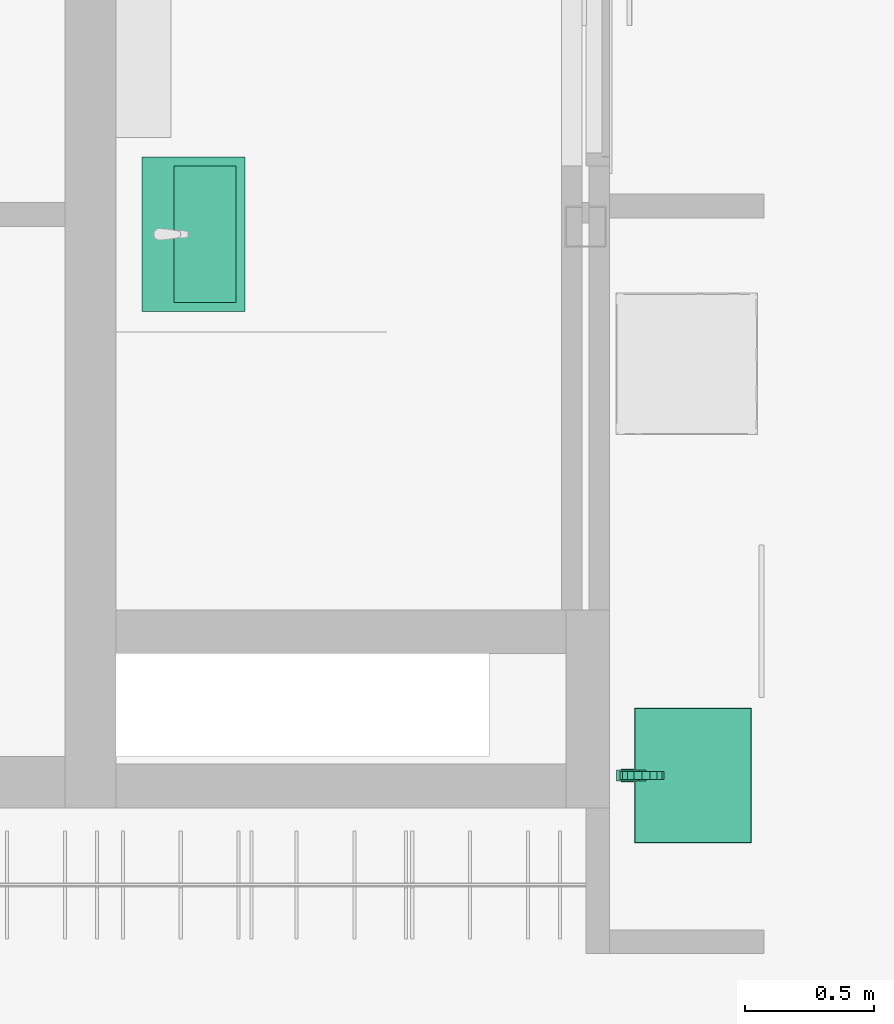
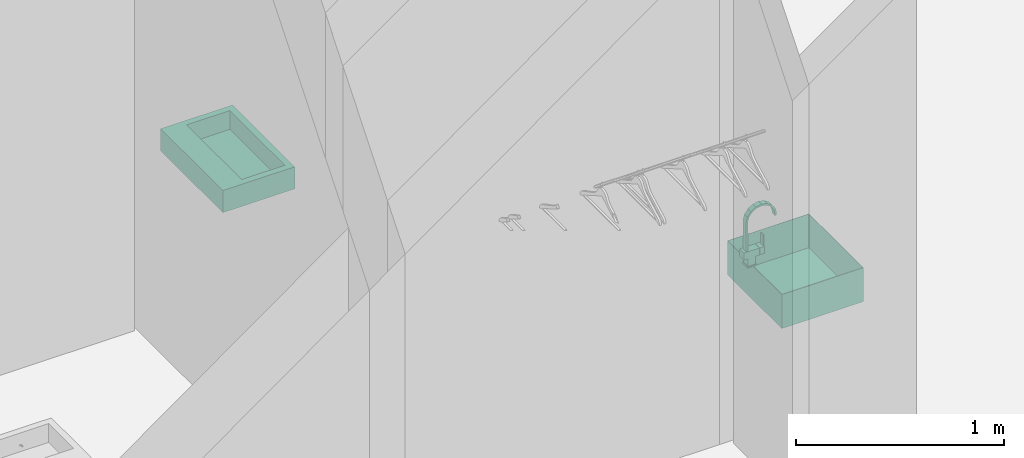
# One storey, part 18 of 42: 3 flow terminals.
"""IFC2X3 building model written with IfcOpenShell, lengths in millimetres."""

from ifc_helpers import new_model, entity, si_unit, converted_unit, direction, frame, origin, place, context, subcontext, project, spatial, faceted_brep, source, transform, mapped, material, type_object, type_shapes, element, save


model = new_model("IFC2X3")

# Units and contexts
model_context = context("Model", 3, precision=0.01, world=origin(), true_north=direction((6.123233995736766e-17, 1.0)))
plan_context = context("Plan", 3, precision=0.01, world=origin(), true_north=direction((6.123233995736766e-17, 1.0)))
body_context = subcontext(model_context, "Body", "Model", "MODEL_VIEW")
ifc_project = project(units=[si_unit("LENGTHUNIT", "METRE", prefix="MILLI"), converted_unit("PLANEANGLEUNIT", "DEGREE", entity("IfcPlaneAngleMeasure", 0.017453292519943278), si_unit("PLANEANGLEUNIT", "RADIAN"), dimensions=[0, 0, 0, 0, 0, 0, 0]), si_unit("AREAUNIT", "SQUARE_METRE")], contexts=[model_context, plan_context])

# Site, building, storey, space
site_placement = place(None, origin())
site = spatial("IfcSite", under=ifc_project, at=site_placement, Name="Default", CompositionType="ELEMENT")
building_placement = place(site_placement, origin())
building = spatial("IfcBuilding", under=site, at=building_placement, CompositionType="ELEMENT")
storey_placement = place(building_placement, frame((0.0, 0.0, 9465.000076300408)))
storey = spatial("IfcBuildingStorey", under=building, at=storey_placement, Name="4K", CompositionType="ELEMENT", Elevation=9465.000076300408)
space_1_placement = place(storey_placement, origin())
space_1 = spatial("IfcSpace", under=storey, at=space_1_placement, Name="4-10.2", CompositionType="ELEMENT", InteriorOrExteriorSpace="INTERNAL")

# Flow terminals
ifc_material = material(Name="<Unnamed>")
distribution_element_type_1 = type_object("IfcDistributionElementType", Name="HR_Plumbing-fixtures_Sink_Generic_Kitchen_v1:Default", material=ifc_material)
shared_shape_1 = source(origin(), body_context, "Body", "Brep", [
    faceted_brep([(260.0, -50.0, -3825.0), (260.0, -500.0, -3825.0), (-260.0, -500.0, -3825.0), (-260.0, -50.0, -3825.0), (262.0, -48.0, -3825.0), (-262.0, -48.0, -3825.0), (-262.0, -502.0, -3825.0), (262.0, -502.0, -3825.0), (262.0, -48.0, -4025.0), (262.0, -502.0, -4025.0), (-262.0, -502.0, -4025.0), (-262.0, -48.0, -4025.0), (260.0, -50.0, -4023.0), (260.0, -500.0, -4023.0), (-260.0, -500.0, -4023.0), (-260.0, -50.0, -4023.0)], [[[0, 1, 2, 3], [4, 5, 6, 7]], [[8, 9, 10, 11]], [[1, 0, 12, 13]], [[2, 1, 13, 14]], [[3, 2, 14, 15]], [[0, 3, 15, 12]], [[5, 4, 8, 11]], [[6, 5, 11, 10]], [[7, 6, 10, 9]], [[4, 7, 9, 8]], [[13, 12, 15, 14]]], outer=[[False, True], [True], [True], [True], [True], [True], [True], [True], [True], [True], [True]]),
])
type_shapes(distribution_element_type_1, [shared_shape_1])
flow_terminal_1_placement = place(space_1_placement, frame((12668.0, 8566.0, 4695.0), z_axis=(0.0, 0.0, 1.0), x_axis=(0.0, -1.0, 0.0)))
element("IfcFlowTerminal", 1, at=flow_terminal_1_placement, inside=space_1, type_object=distribution_element_type_1, material=ifc_material, Name="HR_Plumbing-fixtures_Sink_Generic_Kitchen_v1:Default", ObjectType="HR_Plumbing-fixtures_Sink_Generic_Kitchen_v1:Default", context=body_context, shape_type="MappedRepresentation", body=[
    mapped(shared_shape_1, transform((0.0, 0.0, 0.0), scale=1.0)),
])
distribution_element_type_2 = type_object("IfcDistributionElementType", Name="HR_Plumbing-fixtures_Faucet_Generic_v1:Default", material=ifc_material)
shared_shape_2 = source(origin(), body_context, "Body", "Brep", [
    faceted_brep([(-21.0, 45.0, 93.0), (21.0, 45.0, 93.0), (21.0, 71.0, 93.0), (11.500000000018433, 71.0, 93.0), (11.50000000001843, 68.0, 93.0), (-11.49999999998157, 68.0, 93.0), (-11.499999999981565, 71.0, 93.0), (-21.0, 71.0, 93.0), (-21.0, 45.0, 52.0), (-21.0, 71.0, 52.0), (-11.499999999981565, 71.0, 52.0), (-11.49999999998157, 68.0, 52.0), (11.50000000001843, 68.0, 52.0), (11.500000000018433, 71.0, 52.0), (21.0, 71.0, 52.0), (21.0, 45.0, 52.0), (-11.499999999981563, 74.0, 155.0), (-11.499999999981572, 68.0, 155.0), (11.500000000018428, 68.0, 155.0), (11.500000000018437, 74.0, 155.0), (-11.499999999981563, 74.0, 47.0), (11.500000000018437, 74.0, 47.0), (11.500000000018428, 68.0, 47.0), (-11.499999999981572, 68.0, 47.0)], [[[0, 1, 2, 3, 4, 5, 6, 7]], [[8, 9, 10, 11, 12, 13, 14, 15]], [[1, 0, 8, 15]], [[2, 1, 15, 14]], [[2, 14, 13, 3]], [[0, 7, 9, 8]], [[16, 17, 18, 19]], [[20, 21, 22, 23]], [[17, 16, 20, 23, 11, 10, 6, 5]], [[18, 17, 5, 4]], [[19, 18, 4, 3, 13, 12, 22, 21]], [[16, 19, 21, 20]], [[23, 22, 12, 11]], [[9, 7, 6, 10]]]),
    faceted_brep([(15.0, -28.2999999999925, 93.0), (-15.0, -28.299999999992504, 93.0), (-15.0, -18.299999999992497, 93.0), (15.0, -18.299999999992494, 93.0), (15.0, -28.299999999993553, 262.91444034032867), (-15.0, -28.29999999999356, 262.9144403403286), (-15.0, -18.29999999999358, 262.49427421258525), (15.0, -18.299999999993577, 262.49427421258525), (15.0, -24.100059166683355, 278.21407775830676), (15.0, -19.900118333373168, 293.51371517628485), (-15.0, -19.900118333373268, 293.5137151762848), (-15.0, -24.100059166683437, 278.2140777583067), (-15.0, -0.9291565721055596, 318.9494428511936), (-15.0, -10.414637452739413, 306.2315790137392), (15.0, -10.414637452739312, 306.23157901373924), (15.0, -0.9291565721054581, 318.9494428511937), (15.0, 142.33160759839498, 262.51576689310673), (-15.0, 142.33160759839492, 262.51576689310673), (-15.0, 138.20320612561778, 277.83486312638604), (-15.0, 134.07480465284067, 293.15395935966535), (15.0, 134.07480465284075, 293.15395935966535), (15.0, 138.20320612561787, 277.83486312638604), (-15.0, 26.005040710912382, 335.7250992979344), (-15.0, 12.537942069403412, 327.337271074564), (15.0, 12.537942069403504, 327.337271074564), (15.0, 26.005040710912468, 335.7250992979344), (-15.0, 57.19996222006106, 341.5346177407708), (-15.0, 41.60250146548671, 338.6298585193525), (15.0, 41.60250146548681, 338.62985851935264), (15.0, 57.19996222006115, 341.5346177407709), (-15.0, 88.36739590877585, 335.5793923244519), (-15.0, 72.78367906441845, 338.55700503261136), (15.0, 72.78367906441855, 338.55700503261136), (15.0, 88.36739590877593, 335.5793923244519), (-15.0, 124.64885649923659, 305.9160089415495), (-15.0, 115.22290834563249, 318.67805852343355), (15.0, 115.22290834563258, 318.67805852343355), (15.0, 124.64885649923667, 305.9160089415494), (-15.0, 101.79515212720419, 327.1287254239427), (15.0, 101.79515212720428, 327.1287254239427), (-15.0, 142.3316075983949, 249.0), (-15.0, 132.33160759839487, 249.0), (-15.0, 132.3316075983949, 262.11973222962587), (-15.0, 128.64003790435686, 275.58767371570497), (-15.0, 124.94846821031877, 289.05561520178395), (-15.0, 116.61798076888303, 300.2634746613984), (-15.0, 108.28749332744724, 311.4713341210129), (-15.0, 96.45555148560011, 318.88876541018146), (-15.0, 84.623609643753, 326.30619669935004), (-15.0, 70.90577314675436, 328.9204071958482), (-15.0, 57.187936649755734, 331.53461769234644), (-15.0, 43.457269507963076, 328.98865726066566), (-15.0, 29.726602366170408, 326.4426968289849), (-15.0, 17.85792051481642, 319.08419658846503), (-15.0, 5.989238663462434, 311.72569634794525), (-15.0, -2.3968815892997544, 300.55940234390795), (-15.0, -10.783001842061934, 289.3931083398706), (-15.0, -14.541500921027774, 275.9436912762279), (15.0, -10.783001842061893, 289.3931083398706), (15.0, -14.541500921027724, 275.9436912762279), (15.0, 5.989238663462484, 311.7256963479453), (15.0, -2.396881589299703, 300.55940234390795), (15.0, 116.61798076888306, 300.2634746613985), (15.0, 108.28749332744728, 311.47133412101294), (15.0, 124.94846821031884, 289.05561520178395), (15.0, 29.726602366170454, 326.4426968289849), (15.0, 17.857920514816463, 319.08419658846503), (15.0, 57.187936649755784, 331.53461769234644), (15.0, 43.45726950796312, 328.98865726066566), (15.0, 84.62360964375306, 326.30619669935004), (15.0, 70.90577314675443, 328.9204071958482), (15.0, 127.94606568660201, 278.11949025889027), (15.0, 132.33160759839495, 262.11973222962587), (15.0, 96.45555148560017, 318.88876541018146), (15.0, 132.33160759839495, 249.0), (15.0, 142.33160759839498, 249.0)], [[[0, 1, 2, 3]], [[1, 0, 4, 5]], [[3, 2, 6, 7]], [[4, 8, 9, 10, 11, 5]], [[12, 13, 10, 9, 14, 15]], [[16, 17, 18, 19, 20, 21]], [[22, 23, 12, 15, 24, 25]], [[26, 27, 22, 25, 28, 29]], [[30, 31, 26, 29, 32, 33]], [[34, 35, 36, 37, 20, 19]], [[35, 38, 30, 33, 39, 36]], [[17, 40, 41, 42, 43, 44, 45, 46, 47, 48, 49, 50, 51, 52, 53, 54, 55, 56, 57, 6, 2, 1, 5, 11, 10, 13, 12, 23, 22, 27, 26, 31, 30, 38, 35, 34, 19, 18]], [[6, 57, 56, 58, 59, 7]], [[60, 61, 58, 56, 55, 54]], [[62, 63, 46, 45, 44, 64]], [[65, 66, 60, 54, 53, 52]], [[65, 52, 51, 50, 67, 68]], [[69, 70, 67, 50, 49, 48]], [[71, 64, 44, 43, 42, 72]], [[47, 46, 63, 73, 69, 48]], [[72, 74, 75, 16, 21, 20, 37, 36, 39, 33, 32, 29, 28, 25, 24, 15, 14, 9, 8, 4, 0, 3, 7, 59, 58, 61, 60, 66, 65, 68, 67, 70, 69, 73, 63, 62, 64, 71]], [[41, 40, 75, 74]], [[17, 16, 75, 40]], [[72, 42, 41, 74]]]),
    faceted_brep([(-21.0, -43.0, 93.0), (21.0, -43.0, 93.0), (21.0, 43.0, 93.0), (-21.0, 43.0, 93.0), (-21.0, -43.0, 52.0), (-21.0, 43.0, 52.0), (21.0, 43.0, 52.0), (21.0, -43.0, 52.0)], [[[0, 1, 2, 3]], [[4, 5, 6, 7]], [[1, 0, 4, 7]], [[2, 1, 7, 6]], [[3, 2, 6, 5]], [[0, 3, 5, 4]]]),
    faceted_brep([(21.0, -21.0, 52.0), (21.0, 21.0, 52.0), (-21.0, 21.0, 52.0), (-21.0, -21.0, 52.0), (21.0, -21.0, 7.0), (-21.0, -21.0, 7.0), (-21.0, 21.0, 7.0), (21.0, 21.0, 7.0)], [[[0, 1, 2, 3]], [[4, 5, 6, 7]], [[1, 0, 4, 7]], [[2, 1, 7, 6]], [[3, 2, 6, 5]], [[0, 3, 5, 4]]]),
    faceted_brep([(-25.0, 25.0, 7.0), (-25.0, -25.0, 7.0), (25.0, -25.0, 7.0), (25.0, 25.0, 7.0), (-25.0, 25.0, 0.0), (25.0, 25.0, 0.0), (25.0, -25.0, 0.0), (-25.0, -25.0, 0.0)], [[[0, 1, 2, 3]], [[4, 5, 6, 7]], [[1, 0, 4, 7]], [[2, 1, 7, 6]], [[3, 2, 6, 5]], [[0, 3, 5, 4]]]),
])
type_shapes(distribution_element_type_2, [shared_shape_2])
flow_terminal_2_placement = place(space_1_placement, frame((12138.0, 8566.0, 900.0), z_axis=(0.0, 0.0, 1.0), x_axis=(0.0, -1.0, 0.0)))
element("IfcFlowTerminal", 2, at=flow_terminal_2_placement, inside=space_1, type_object=distribution_element_type_2, material=ifc_material, Name="HR_Plumbing-fixtures_Faucet_Generic_v1:Default", ObjectType="HR_Plumbing-fixtures_Faucet_Generic_v1:Default", context=body_context, shape_type="MappedRepresentation", body=[
    mapped(shared_shape_2, transform((0.0, 0.0, 0.0), scale=1.0)),
])

# Space
space_2_placement = place(storey_placement, origin())
space_2 = spatial("IfcSpace", under=storey, at=space_2_placement, Name="4-10.4", CompositionType="ELEMENT", InteriorOrExteriorSpace="INTERNAL")

# Flow terminal
distribution_element_type_3 = type_object("IfcDistributionElementType", Name="HR_Plumbing-fixtures_Sink_Generic_Bathroom_v1:600 x 400 mm", material=ifc_material)
shared_shape_3 = source(origin(), body_context, "Body", "Brep", [
    faceted_brep([(300.0, 0.0, 0.0), (-300.0, 0.0, 0.0), (-300.0, -400.0, 0.0), (300.0, -400.0, 0.0), (-265.0, -125.0, 0.0), (265.0, -125.0, 0.0), (265.0, -365.0, 0.0), (-265.0, -365.0, 0.0), (300.0, 0.0, -130.0), (300.0, -400.0, -130.0), (-300.0, -400.0, -130.0), (-300.0, 0.0, -130.0), (265.0, -125.0, -110.0), (-265.0, -125.0, -110.0), (-265.0, -365.0, -110.0), (265.0, -365.0, -110.0)], [[[0, 1, 2, 3], [4, 5, 6, 7]], [[8, 9, 10, 11]], [[1, 0, 8, 11]], [[2, 1, 11, 10]], [[3, 2, 10, 9]], [[0, 3, 9, 8]], [[12, 13, 14, 15]], [[13, 12, 5, 4]], [[14, 13, 4, 7]], [[15, 14, 7, 6]], [[12, 15, 6, 5]]]),
])
type_shapes(distribution_element_type_3, [shared_shape_3])
flow_terminal_3_placement = place(space_2_placement, frame((10250.0, 10670.098888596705, 900.0), z_axis=(0.0, 0.0, 1.0), x_axis=(0.0, 1.0, 0.0)))
element("IfcFlowTerminal", 3, at=flow_terminal_3_placement, inside=space_2, type_object=distribution_element_type_3, material=ifc_material, Name="HR_Plumbing-fixtures_Sink_Generic_Bathroom_v1:600 x 400 mm", ObjectType="HR_Plumbing-fixtures_Sink_Generic_Bathroom_v1:600 x 400 mm", context=body_context, shape_type="MappedRepresentation", body=[
    mapped(shared_shape_3, transform((0.0, 0.0, 0.0), scale=1.0)),
])

save(model, "model.ifc")
